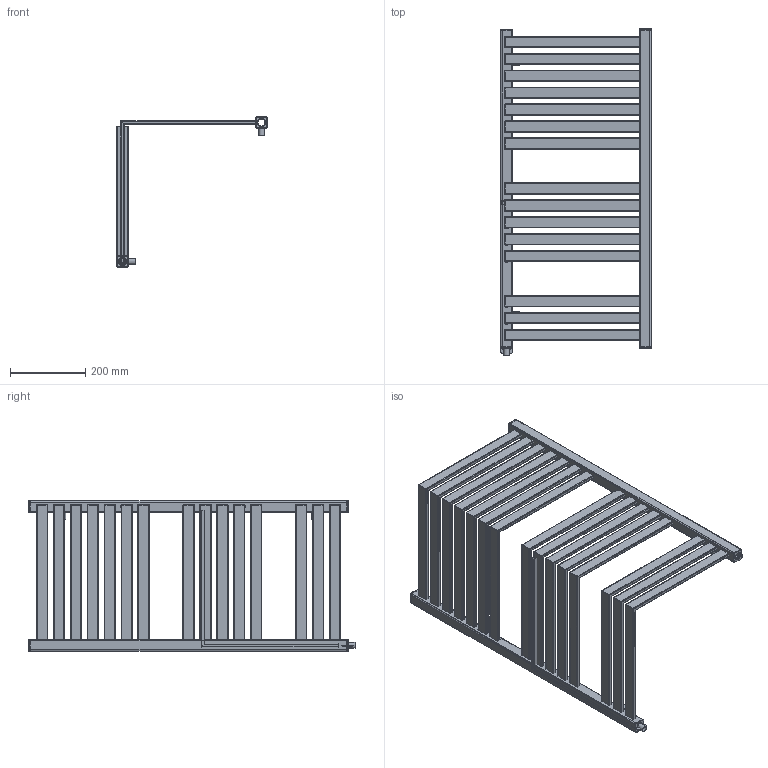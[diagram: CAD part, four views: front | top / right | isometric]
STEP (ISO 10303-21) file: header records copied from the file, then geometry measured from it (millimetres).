
FILE_DESCRIPTION( ( 'Unknown' ), '1' );
FILE_NAME( 'D:/Alplast sp. j/Witryna zespoBu - Projekty/Archiwum/Grzejniki Archiwum/Projekty/DESIGN PROGRAM/CORNER ALFA I BETA/CORNER ALFA 3.stp', 'Unknown', ( 'Unknown' ), ( 'Unknown' ), 'PSStep 10.1', 'Unknown', ' ' );
FILE_SCHEMA( ( 'AUTOMOTIVE_DESIGN { 1 0 10303 214 1 1 1 1 }' ) );
Length unit declared in the file: millimetre
Products named in the file (6): Assem1; kana³ po giêciu; kana³y 30x10 czêœæ do giêcia; AK3-N; zaslepka kwadrat otwor; mocowanie
Bounding box: 400 x 868 x 400 mm (x, y, z)
Volume: 1534605.1 mm3; surface area: 2287439.1 mm2
Topology: 46 solids, 46 shells, 1280 faces, 3567 edges, 2356 vertices
Faces by surface type: plane 709, cylinder 561, torus 10
Full cylindrical faces by diameter (mm): 14 x5, 16 x5, 18.631 x5, 23 x5
Entity records: 7952 total; most frequent: DIRECTION 1141, CARTESIAN_POINT 1117, ORIENTED_EDGE 1054, EDGE_CURVE 527, AXIS2_PLACEMENT_3D 400, VERTEX_POINT 354, LINE 341, VECTOR 341
